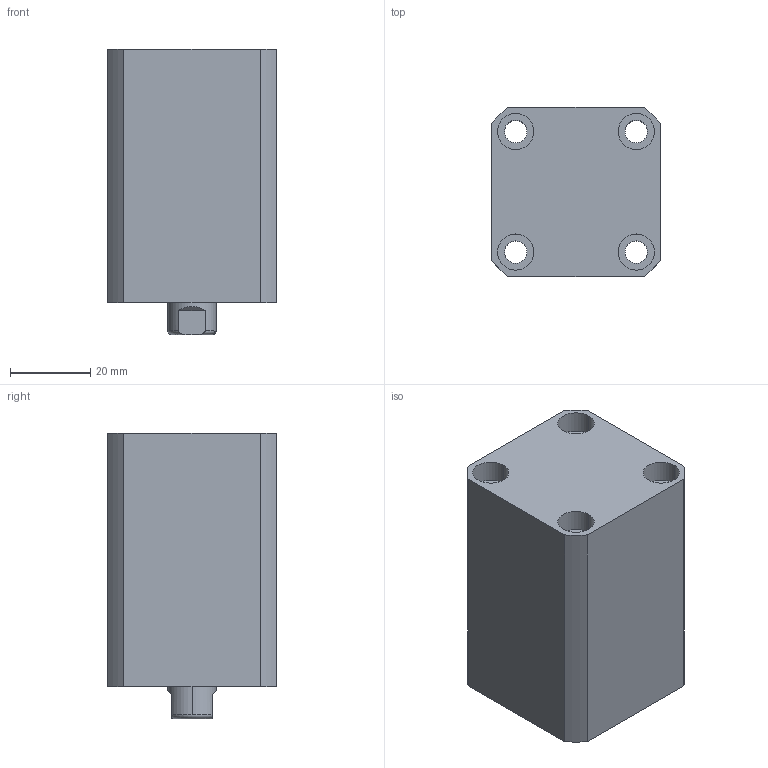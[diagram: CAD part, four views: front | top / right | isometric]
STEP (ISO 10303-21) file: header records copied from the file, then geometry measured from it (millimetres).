
FILE_DESCRIPTION (( 'STEP AP214' ), '1' );
FILE_NAME ('chtb-sd20x20n_asm.STEP', '2018-04-26T11:33:05', ( 'Windows' ), ( 'Microsoft' ), 'SwSTEP 2.0', 'SolidWorks 2015', '' );
FILE_SCHEMA (( 'AUTOMOTIVE_DESIGN' ));
Length unit declared in the file: millimetre
Products named in the file (4): QG; CHTB-SD20X20NHSG; CHTB-SD20X20NBT; chtb-sd20x20n_asm
Assembly tree (3 placements, depth 2):
  chtb-sd20x20n_asm
    CHTB-SD20X20NBT
    CHTB-SD20X20NHSG
    QG
Bounding box: 42 x 42 x 71 mm (x, y, z)
Volume: 94566.1 mm3; surface area: 31249.9 mm2
Topology: 3 solids, 3 shells, 192 faces, 499 edges, 330 vertices
Faces by surface type: cylinder 102, plane 36, torus 25, bspline 19, cone 10
Entity records: 10524 total; most frequent: CARTESIAN_POINT 5851, ORIENTED_EDGE 986, DIRECTION 903, EDGE_CURVE 493, AXIS2_PLACEMENT_3D 385, VERTEX_POINT 330, EDGE_LOOP 229, CIRCLE 206
